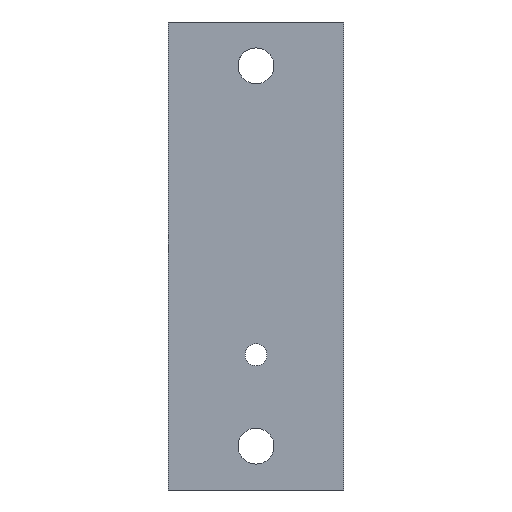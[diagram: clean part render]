
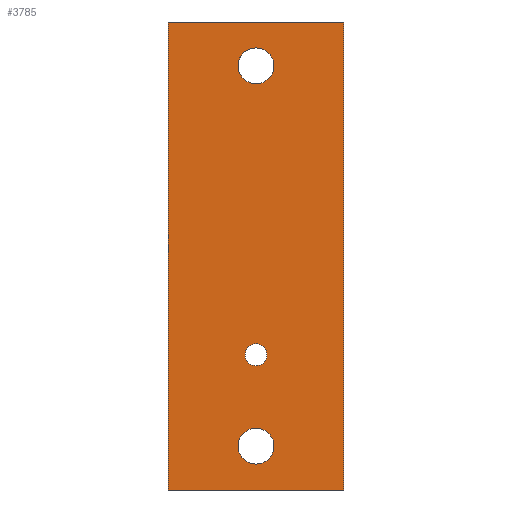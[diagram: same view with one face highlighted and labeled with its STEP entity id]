
A CAD part, front view. The second image highlights one B-rep face of the part: STEP entity #3785.
In plain terms, the highlighted planar face has unit normal (0, -1, 0).
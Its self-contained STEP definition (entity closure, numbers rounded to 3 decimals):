
#1655=AXIS2_PLACEMENT_3D('Circle Axis2P3D',#1653,#1654,$) ;
#1674=AXIS2_PLACEMENT_3D('Circle Axis2P3D',#1672,#1673,$) ;
#1693=AXIS2_PLACEMENT_3D('Circle Axis2P3D',#1691,#1692,$) ;
#1712=AXIS2_PLACEMENT_3D('Circle Axis2P3D',#1710,#1711,$) ;
#2783=AXIS2_PLACEMENT_3D('Circle Axis2P3D',#2781,#2782,$) ;
#2802=AXIS2_PLACEMENT_3D('Circle Axis2P3D',#2800,#2801,$) ;
#3746=AXIS2_PLACEMENT_3D('Plane Axis2P3D',#3743,#3744,#3745) ;
#274=CARTESIAN_POINT('Vertex',(12.,87.6,-24.75)) ;
#277=CARTESIAN_POINT('Line Origine',(6.,87.6,-24.75)) ;
#281=CARTESIAN_POINT('Vertex',(0.,87.6,-24.75)) ;
#1650=CARTESIAN_POINT('Vertex',(7.079,87.6,4.839)) ;
#1653=CARTESIAN_POINT('Axis2P3D Location',(6.,87.6,4.25)) ;
#1657=CARTESIAN_POINT('Vertex',(4.921,87.6,3.661)) ;
#1672=CARTESIAN_POINT('Axis2P3D Location',(6.,87.6,4.25)) ;
#1688=CARTESIAN_POINT('Vertex',(7.079,87.6,-21.161)) ;
#1691=CARTESIAN_POINT('Axis2P3D Location',(6.,87.6,-21.75)) ;
#1695=CARTESIAN_POINT('Vertex',(4.921,87.6,-22.339)) ;
#1710=CARTESIAN_POINT('Axis2P3D Location',(6.,87.6,-21.75)) ;
#2778=CARTESIAN_POINT('Vertex',(6.,87.6,-14.75)) ;
#2781=CARTESIAN_POINT('Axis2P3D Location',(6.,87.6,-15.5)) ;
#2785=CARTESIAN_POINT('Vertex',(6.,87.6,-16.25)) ;
#2800=CARTESIAN_POINT('Axis2P3D Location',(6.,87.6,-15.5)) ;
#3743=CARTESIAN_POINT('Axis2P3D Location',(0.,87.6,5.294)) ;
#3748=CARTESIAN_POINT('Line Origine',(0.,87.6,-8.86)) ;
#3752=CARTESIAN_POINT('Vertex',(0.,87.6,7.25)) ;
#3755=CARTESIAN_POINT('Line Origine',(12.,87.6,-8.86)) ;
#3759=CARTESIAN_POINT('Vertex',(12.,87.6,7.25)) ;
#3762=CARTESIAN_POINT('Line Origine',(6.,87.6,7.25)) ;
#278=DIRECTION('Vector Direction',(-1.,0.,0.)) ;
#1654=DIRECTION('Axis2P3D Direction',(0.,-1.,-0.)) ;
#1673=DIRECTION('Axis2P3D Direction',(0.,-1.,-0.)) ;
#1692=DIRECTION('Axis2P3D Direction',(0.,-1.,-0.)) ;
#1711=DIRECTION('Axis2P3D Direction',(0.,-1.,-0.)) ;
#2782=DIRECTION('Axis2P3D Direction',(0.,1.,0.)) ;
#2801=DIRECTION('Axis2P3D Direction',(0.,1.,0.)) ;
#3744=DIRECTION('Axis2P3D Direction',(0.,1.,0.)) ;
#3745=DIRECTION('Axis2P3D XDirection',(0.,0.,1.)) ;
#3749=DIRECTION('Vector Direction',(0.,0.,1.)) ;
#3756=DIRECTION('Vector Direction',(0.,0.,1.)) ;
#3763=DIRECTION('Vector Direction',(1.,0.,0.)) ;
#279=VECTOR('Line Direction',#278,1.) ;
#3750=VECTOR('Line Direction',#3749,1.) ;
#3757=VECTOR('Line Direction',#3756,1.) ;
#3764=VECTOR('Line Direction',#3763,1.) ;
#3768=ORIENTED_EDGE('',*,*,#3754,.F.) ;
#3769=ORIENTED_EDGE('',*,*,#283,.T.) ;
#3770=ORIENTED_EDGE('',*,*,#3761,.T.) ;
#3771=ORIENTED_EDGE('',*,*,#3766,.T.) ;
#3774=ORIENTED_EDGE('',*,*,#1676,.T.) ;
#3775=ORIENTED_EDGE('',*,*,#1659,.T.) ;
#3778=ORIENTED_EDGE('',*,*,#1714,.T.) ;
#3779=ORIENTED_EDGE('',*,*,#1697,.T.) ;
#3782=ORIENTED_EDGE('',*,*,#2787,.F.) ;
#3783=ORIENTED_EDGE('',*,*,#2804,.F.) ;
#3776=FACE_BOUND('',#3773,.T.) ;
#3780=FACE_BOUND('',#3777,.T.) ;
#3784=FACE_BOUND('',#3781,.T.) ;
#3785=ADVANCED_FACE('Body.5',(#3772,#3776,#3780,#3784),#3747,.F.) ;
#1656=CIRCLE('generated circle',#1655,1.23) ;
#1675=CIRCLE('generated circle',#1674,1.23) ;
#1694=CIRCLE('generated circle',#1693,1.23) ;
#1713=CIRCLE('generated circle',#1712,1.23) ;
#2784=CIRCLE('generated circle',#2783,0.75) ;
#2803=CIRCLE('generated circle',#2802,0.75) ;
#283=EDGE_CURVE('',#282,#275,#280,.F.) ;
#1659=EDGE_CURVE('',#1658,#1651,#1656,.F.) ;
#1676=EDGE_CURVE('',#1651,#1658,#1675,.F.) ;
#1697=EDGE_CURVE('',#1696,#1689,#1694,.F.) ;
#1714=EDGE_CURVE('',#1689,#1696,#1713,.F.) ;
#2787=EDGE_CURVE('',#2779,#2786,#2784,.F.) ;
#2804=EDGE_CURVE('',#2786,#2779,#2803,.F.) ;
#3754=EDGE_CURVE('',#282,#3753,#3751,.T.) ;
#3761=EDGE_CURVE('',#275,#3760,#3758,.T.) ;
#3766=EDGE_CURVE('',#3760,#3753,#3765,.F.) ;
#3767=EDGE_LOOP('',(#3768,#3769,#3770,#3771)) ;
#3773=EDGE_LOOP('',(#3774,#3775)) ;
#3777=EDGE_LOOP('',(#3778,#3779)) ;
#3781=EDGE_LOOP('',(#3782,#3783)) ;
#3772=FACE_OUTER_BOUND('',#3767,.T.) ;
#280=LINE('Line',#277,#279) ;
#3751=LINE('Line',#3748,#3750) ;
#3758=LINE('Line',#3755,#3757) ;
#3765=LINE('Line',#3762,#3764) ;
#3747=PLANE('',#3746) ;
#275=VERTEX_POINT('',#274) ;
#282=VERTEX_POINT('',#281) ;
#1651=VERTEX_POINT('',#1650) ;
#1658=VERTEX_POINT('',#1657) ;
#1689=VERTEX_POINT('',#1688) ;
#1696=VERTEX_POINT('',#1695) ;
#2779=VERTEX_POINT('',#2778) ;
#2786=VERTEX_POINT('',#2785) ;
#3753=VERTEX_POINT('',#3752) ;
#3760=VERTEX_POINT('',#3759) ;
